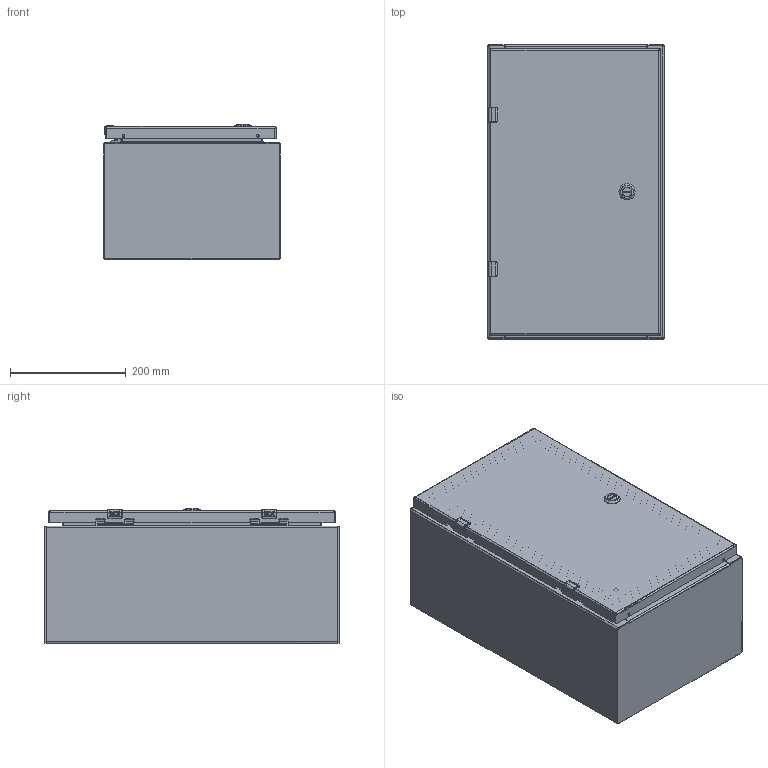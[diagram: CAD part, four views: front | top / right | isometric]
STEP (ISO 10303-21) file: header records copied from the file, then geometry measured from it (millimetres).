
FILE_DESCRIPTION((''),'2;1');
FILE_NAME('MODEL-305_ASM','2025-02-14T13:44:47',('joshi'),('SAGINAW CONTROL & ENGINEERING'),'CREO PARAMETRIC BY PTC INC, 2021284','CREO PARAMETRIC BY PTC INC, 2021284','');
FILE_SCHEMA(('AUTOMOTIVE_DESIGN { 1 0 10303 214 1 1 1 1 }'));
Length unit declared in the file: inch
Products named in the file (27): MODEL-305-BDY; MODEL-305-TP; MODEL-305-BTM; MODEL-305-DR; 100837; 100794_SHAFT; 100794_INSERT; 100794_CAM; 100794_NUT; 100794_SCREW; 100794_ASM; MODEL-305-DOOR-GASKET; 126391; 126391_ASM; 126393; 102483; 101226; 101376; 102140; 132757; MODEL-305-DOOR-ASSY_ASM; 101651; 122191; SUBPANEL; 100904; SUBPANEL-SUBASSEMBLY_ASM; MODEL-305_ASM
Assembly tree (44 placements, depth 4):
  MODEL-305_ASM
    MODEL-305-BDY
    MODEL-305-TP
    MODEL-305-BTM
    MODEL-305-DOOR-ASSY_ASM
      MODEL-305-DR
      100837
      100794_ASM
        100794_SHAFT
        100794_INSERT
        100794_CAM
        100794_NUT
        100794_SCREW
      MODEL-305-DOOR-GASKET
      126391_ASM  x2
        126391
      126393  x2
      102483  x6
      101226  x2
      101376  x2
      102140  x2
      132757  x2
    100837
    101651  x4
    122191
    SUBPANEL-SUBASSEMBLY_ASM
      SUBPANEL
      100904  x4
Bounding box: 304.8 x 508 x 234.33 mm (x, y, z)
Volume: 1895748.1 mm3; surface area: 1769044.7 mm2
Topology: 41 solids, 41 shells, 1969 faces, 4909 edges, 3076 vertices
Faces by surface type: plane 905, cylinder 631, torus 177, bspline 116, cone 96, sphere 44
Entity records: 61971 total; most frequent: CARTESIAN_POINT 13294, DIRECTION 7001, ORIENTED_EDGE 6606, PRESENTATION_STYLE_ASSIGNMENT 3499, EDGE_CURVE 3303, STYLED_ITEM 3224, CURVE_STYLE 3141, AXIS2_PLACEMENT_3D 2543
